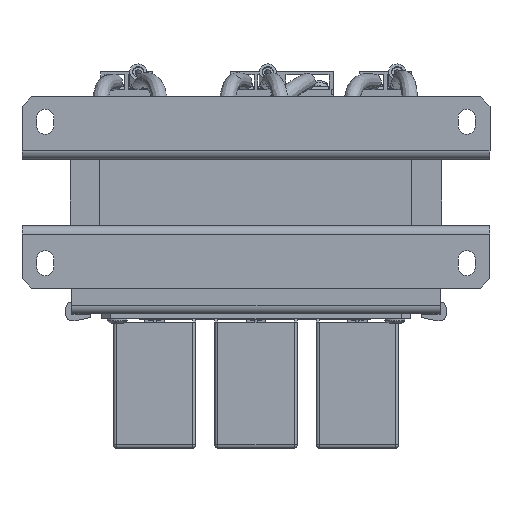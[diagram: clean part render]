
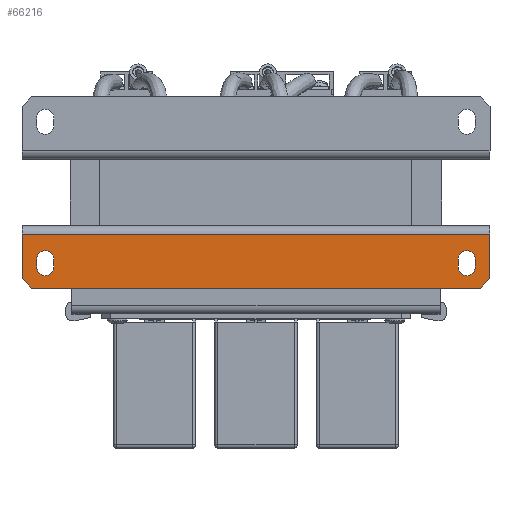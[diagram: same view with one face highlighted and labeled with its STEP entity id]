
A CAD part, front view. The second image highlights one B-rep face of the part: STEP entity #66216.
In plain terms, the highlighted planar face has unit normal (0, -1, 0).
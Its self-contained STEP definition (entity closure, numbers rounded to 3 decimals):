
#1070=FACE_BOUND('',#11220,.T.);
#1071=FACE_BOUND('',#11221,.T.);
#4389=PLANE('',#70890);
#7469=FACE_OUTER_BOUND('',#11219,.T.);
#11219=EDGE_LOOP('',(#51964,#51965,#51966,#51967,#51968,#51969));
#11220=EDGE_LOOP('',(#51970,#51971,#51972,#51973));
#11221=EDGE_LOOP('',(#51974,#51975,#51976,#51977));
#14609=CIRCLE('',#70860,2.75);
#14610=CIRCLE('',#70863,2.75);
#14611=CIRCLE('',#70866,2.75);
#14612=CIRCLE('',#70869,2.75);
#18293=LINE('',#101943,#24850);
#18297=LINE('',#101950,#24854);
#18307=LINE('',#101978,#24864);
#18309=LINE('',#101982,#24866);
#18311=LINE('',#101987,#24868);
#18315=LINE('',#101996,#24872);
#18317=LINE('',#102003,#24874);
#18321=LINE('',#102012,#24878);
#18326=LINE('',#102047,#24883);
#18327=LINE('',#102049,#24884);
#24850=VECTOR('',#81428,10.);
#24854=VECTOR('',#81434,10.);
#24864=VECTOR('',#81456,10.);
#24866=VECTOR('',#81460,10.);
#24868=VECTOR('',#81464,10.);
#24872=VECTOR('',#81474,10.);
#24874=VECTOR('',#81482,10.);
#24878=VECTOR('',#81492,10.);
#24883=VECTOR('',#81539,10.);
#24884=VECTOR('',#81542,10.);
#31658=VERTEX_POINT('',#101940);
#31659=VERTEX_POINT('',#101942);
#31661=VERTEX_POINT('',#101948);
#31673=VERTEX_POINT('',#101976);
#31674=VERTEX_POINT('',#101980);
#31675=VERTEX_POINT('',#101984);
#31676=VERTEX_POINT('',#101986);
#31677=VERTEX_POINT('',#101990);
#31678=VERTEX_POINT('',#101994);
#31679=VERTEX_POINT('',#102000);
#31680=VERTEX_POINT('',#102002);
#31681=VERTEX_POINT('',#102006);
#31682=VERTEX_POINT('',#102010);
#31691=VERTEX_POINT('',#102043);
#39097=EDGE_CURVE('',#31658,#31659,#18293,.T.);
#39101=EDGE_CURVE('',#31661,#31658,#18297,.T.);
#39115=EDGE_CURVE('',#31673,#31661,#18307,.T.);
#39117=EDGE_CURVE('',#31674,#31673,#18309,.T.);
#39119=EDGE_CURVE('',#31676,#31675,#18311,.T.);
#39122=EDGE_CURVE('',#31675,#31677,#14609,.T.);
#39124=EDGE_CURVE('',#31677,#31678,#18315,.T.);
#39125=EDGE_CURVE('',#31678,#31676,#14610,.T.);
#39127=EDGE_CURVE('',#31680,#31679,#18317,.T.);
#39130=EDGE_CURVE('',#31679,#31681,#14611,.T.);
#39132=EDGE_CURVE('',#31681,#31682,#18321,.T.);
#39133=EDGE_CURVE('',#31682,#31680,#14612,.T.);
#39150=EDGE_CURVE('',#31674,#31691,#18326,.T.);
#39151=EDGE_CURVE('',#31659,#31691,#18327,.T.);
#51964=ORIENTED_EDGE('',*,*,#39097,.F.);
#51965=ORIENTED_EDGE('',*,*,#39101,.F.);
#51966=ORIENTED_EDGE('',*,*,#39115,.F.);
#51967=ORIENTED_EDGE('',*,*,#39117,.F.);
#51968=ORIENTED_EDGE('',*,*,#39150,.T.);
#51969=ORIENTED_EDGE('',*,*,#39151,.F.);
#51970=ORIENTED_EDGE('',*,*,#39119,.T.);
#51971=ORIENTED_EDGE('',*,*,#39122,.T.);
#51972=ORIENTED_EDGE('',*,*,#39124,.T.);
#51973=ORIENTED_EDGE('',*,*,#39125,.T.);
#51974=ORIENTED_EDGE('',*,*,#39127,.T.);
#51975=ORIENTED_EDGE('',*,*,#39130,.T.);
#51976=ORIENTED_EDGE('',*,*,#39132,.T.);
#51977=ORIENTED_EDGE('',*,*,#39133,.T.);
#66216=ADVANCED_FACE('',(#7469,#1070,#1071),#4389,.F.);
#70860=AXIS2_PLACEMENT_3D('',#101992,#81469,#81470);
#70863=AXIS2_PLACEMENT_3D('',#101998,#81477,#81478);
#70866=AXIS2_PLACEMENT_3D('',#102008,#81487,#81488);
#70869=AXIS2_PLACEMENT_3D('',#102014,#81495,#81496);
#70890=AXIS2_PLACEMENT_3D('',#102050,#81543,#81544);
#81428=DIRECTION('',(-0.707,0.,0.707));
#81434=DIRECTION('',(-1.,0.,0.));
#81456=DIRECTION('',(-0.707,0.,-0.707));
#81460=DIRECTION('',(0.,0.,-1.));
#81464=DIRECTION('',(0.,0.,1.));
#81469=DIRECTION('center_axis',(0.,1.,0.));
#81470=DIRECTION('ref_axis',(0.,0.,-1.));
#81474=DIRECTION('',(0.,0.,-1.));
#81477=DIRECTION('center_axis',(0.,1.,0.));
#81478=DIRECTION('ref_axis',(-1.,0.,0.));
#81482=DIRECTION('',(0.,0.,-1.));
#81487=DIRECTION('center_axis',(0.,1.,0.));
#81488=DIRECTION('ref_axis',(0.,0.,1.));
#81492=DIRECTION('',(0.,0.,1.));
#81495=DIRECTION('center_axis',(0.,1.,0.));
#81496=DIRECTION('ref_axis',(1.,0.,0.));
#81539=DIRECTION('',(-1.,0.,0.));
#81542=DIRECTION('',(0.,0.,1.));
#81543=DIRECTION('center_axis',(0.,1.,0.));
#81544=DIRECTION('ref_axis',(-1.,0.,0.));
#101940=CARTESIAN_POINT('',(-72.,-54.9,-30.65));
#101942=CARTESIAN_POINT('',(-75.,-54.9,-27.65));
#101943=CARTESIAN_POINT('',(-57.25,-54.9,-45.4));
#101948=CARTESIAN_POINT('',(72.,-54.9,-30.65));
#101950=CARTESIAN_POINT('',(75.,-54.9,-30.65));
#101976=CARTESIAN_POINT('',(75.,-54.9,-27.65));
#101978=CARTESIAN_POINT('',(57.25,-54.9,-45.4));
#101980=CARTESIAN_POINT('',(75.,-54.9,-13.45));
#101982=CARTESIAN_POINT('',(75.,-54.9,-10.65));
#101984=CARTESIAN_POINT('',(64.75,-54.9,-21.4));
#101986=CARTESIAN_POINT('',(64.75,-54.9,-23.9));
#101987=CARTESIAN_POINT('',(64.75,-54.9,-21.025));
#101990=CARTESIAN_POINT('',(70.25,-54.9,-21.4));
#101992=CARTESIAN_POINT('Origin',(67.5,-54.9,-21.4));
#101994=CARTESIAN_POINT('',(70.25,-54.9,-23.9));
#101996=CARTESIAN_POINT('',(70.25,-54.9,-22.275));
#101998=CARTESIAN_POINT('Origin',(67.5,-54.9,-23.9));
#102000=CARTESIAN_POINT('',(-64.75,-54.9,-23.9));
#102002=CARTESIAN_POINT('',(-64.75,-54.9,-21.4));
#102003=CARTESIAN_POINT('',(-64.75,-54.9,-22.275));
#102006=CARTESIAN_POINT('',(-70.25,-54.9,-23.9));
#102008=CARTESIAN_POINT('Origin',(-67.5,-54.9,-23.9));
#102010=CARTESIAN_POINT('',(-70.25,-54.9,-21.4));
#102012=CARTESIAN_POINT('',(-70.25,-54.9,-21.025));
#102014=CARTESIAN_POINT('Origin',(-67.5,-54.9,-21.4));
#102043=CARTESIAN_POINT('',(-75.,-54.9,-13.45));
#102047=CARTESIAN_POINT('',(-37.5,-54.9,-13.45));
#102049=CARTESIAN_POINT('',(-75.,-54.9,-30.65));
#102050=CARTESIAN_POINT('Origin',(0.,-54.9,-20.65));
